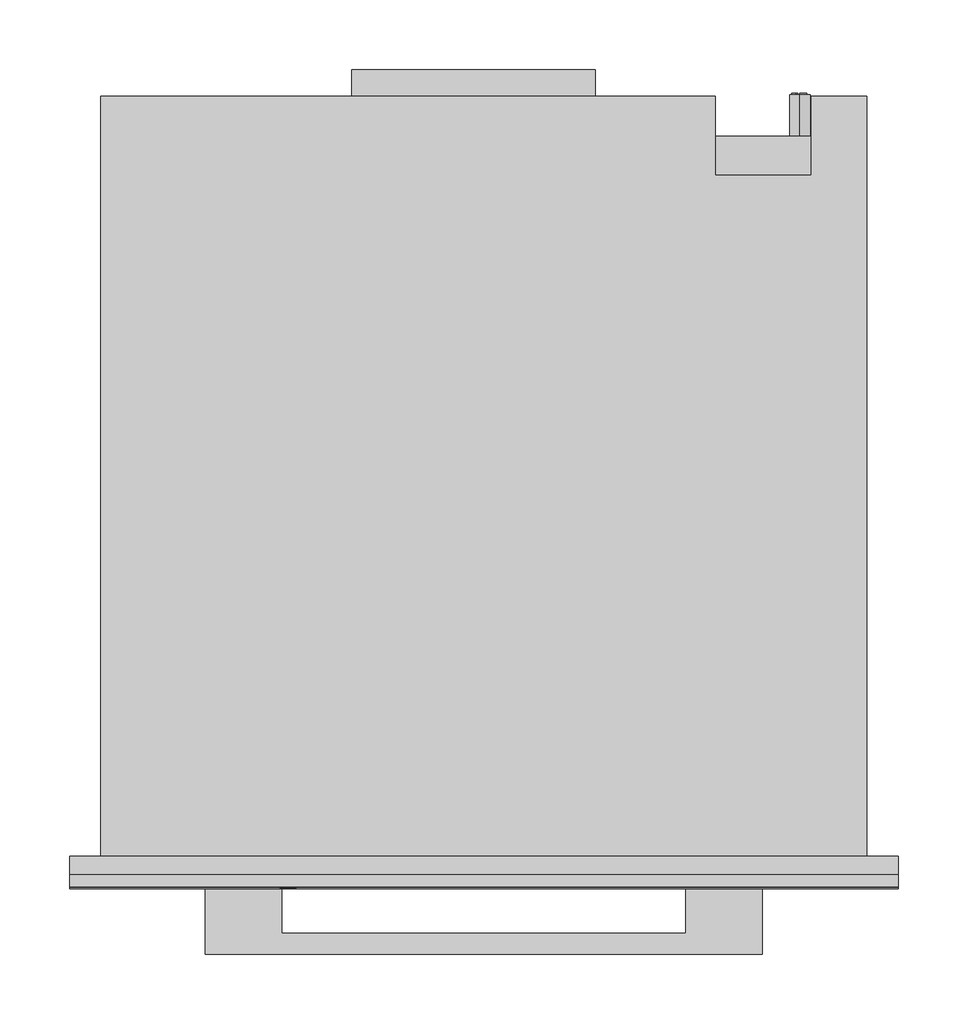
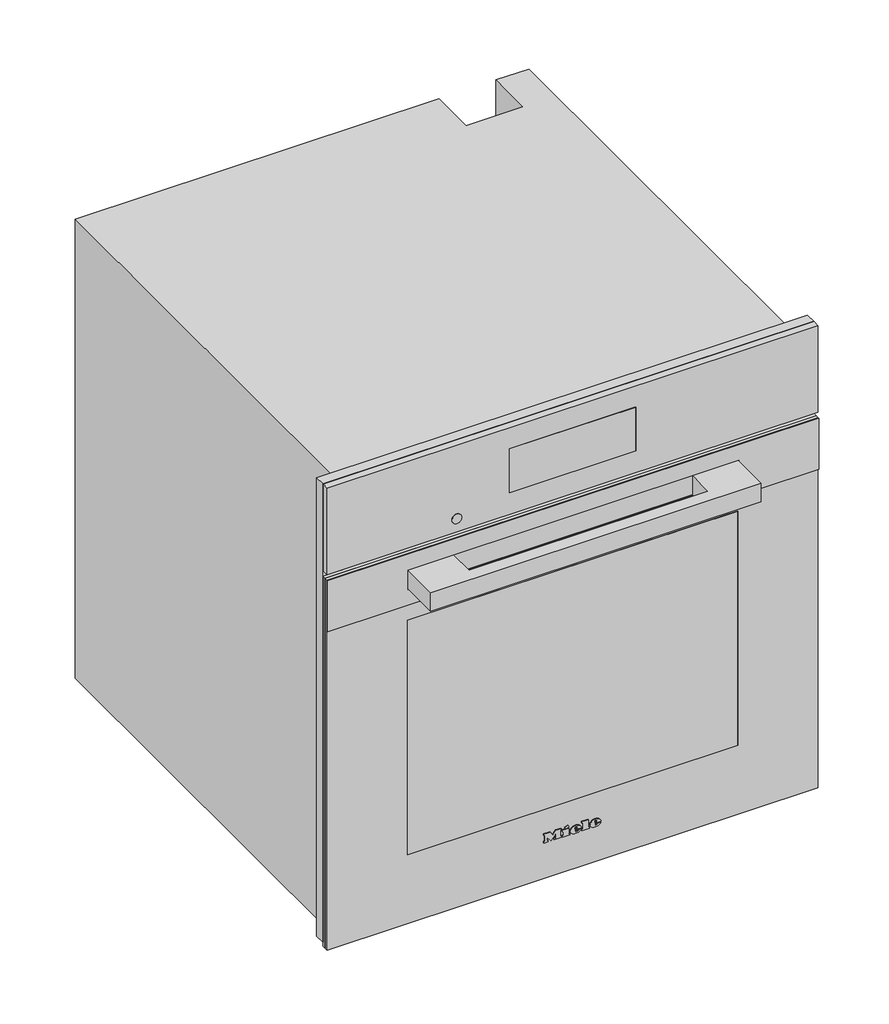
# Not in any storey: 1 proxy.
"""IFC4 building model written with IfcOpenShell, lengths in millimetres."""

from ifc_helpers import new_model, si_unit, origin, place, context, project, spatial, transform, mapped, element, save
from components import specialty_equipment_789c08d1

model = new_model("IFC4")

# Units and contexts
model_context = context("Model", 3, world=origin())
ifc_project = project(units=[si_unit("LENGTHUNIT", "METRE", prefix="MILLI")], contexts=[model_context])

# Site, building
site = spatial("IfcSite", under=ifc_project)
building = spatial("IfcBuilding", under=site)

# Proxy
placement = place(None, origin())
specialty_equipment_shape = specialty_equipment_789c08d1(model_context)
element("IfcBuildingElementProxy", 1, Name="11876980_USA_DGC7860_EDST-CLST : 23786043_USA_11876980_DGC7860_EDST-CLST", ObjectType="11876980_USA_DGC7860_EDST-CLST : 23786043_USA_11876980_DGC7860_EDST-CLST", at=placement, inside=building, context=model_context, shape_type="MappedRepresentation", body=[
    mapped(specialty_equipment_shape, transform((0.0, 0.0, 0.0), x_axis=(1.0, 0.0, 0.0), y_axis=(0.0, 1.0, 0.0), z_axis=(0.0, 0.0, 1.0))),
])

save(model, "model.ifc")
